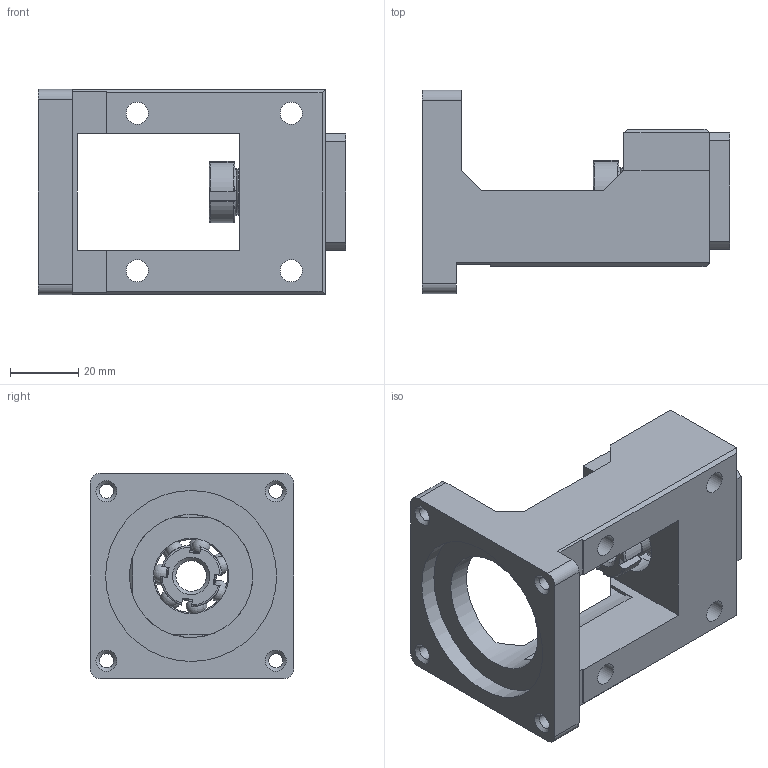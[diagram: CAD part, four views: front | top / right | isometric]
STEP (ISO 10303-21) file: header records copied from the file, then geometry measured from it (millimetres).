
FILE_DESCRIPTION(('STEP AP214'), '1');
FILE_NAME('HM10-060C5 - Êðîíøòåéí HM10', '', ('UNSPECIFIED'), ('UNSPECIFIED'), 'ASCON STEP Converter 1.6', 'ASCON Math Kernel', '');
FILE_SCHEMA(('AUTOMOTIVE_DESIGN { 1 0 10303 214 3 1 1}'));
Length unit declared in the file: millimetre
Products named in the file (1): HM10-060C5
Bounding box: 90 x 59.5 x 60 mm (x, y, z)
Volume: 97314.6 mm3; surface area: 40481.3 mm2
Topology: 27 solids, 27 shells, 302 faces, 742 edges, 476 vertices
Faces by surface type: plane 145, cylinder 75, cone 44, torus 24, sphere 14
Full cylindrical faces by diameter (mm): 3 x4, 3.242 x4, 4 x4, 4.134 x4, 4.5 x4, 6.5 x4, 7 x4, 7.5 x4, 8.917 x1, 10 x4, 10.5 x2, 14 x2, 14.68 x4, 21.32 x2, 22 x2, 26 x3, 26.5 x1, 36 x1, 50 x1
Entity records: 11480 total; most frequent: CARTESIAN_POINT 2284, DIRECTION 1402, ORIENTED_EDGE 1150, AXIS2_PLACEMENT_3D 575, EDGE_CURVE 575, EDGE_LOOP 458, VERTEX_POINT 439, COLOUR_RGB 328
